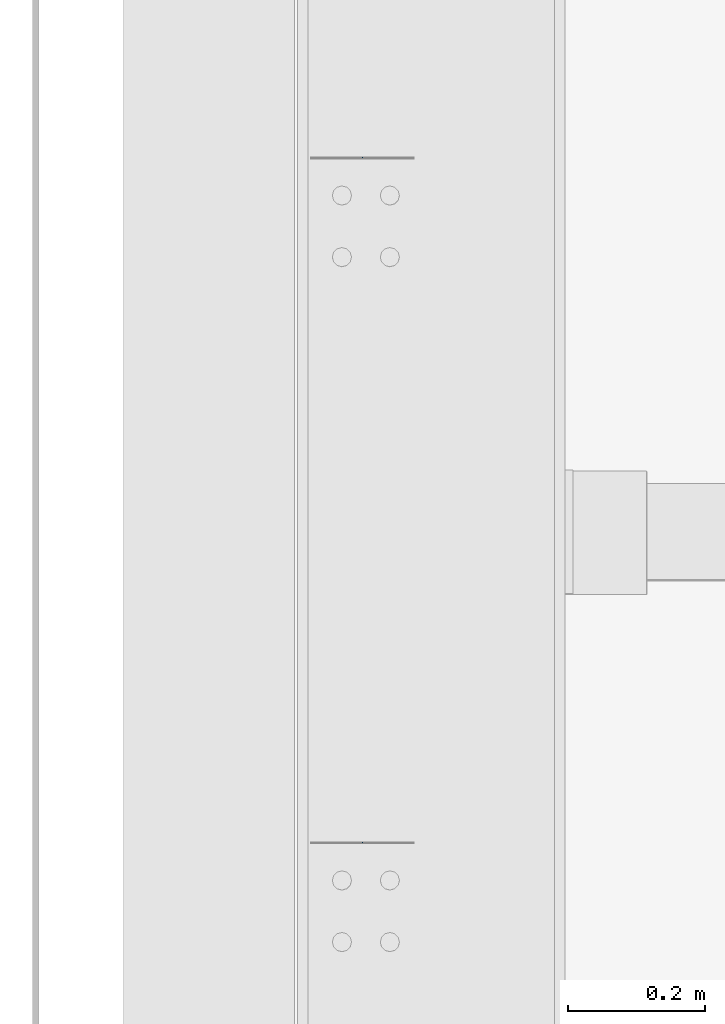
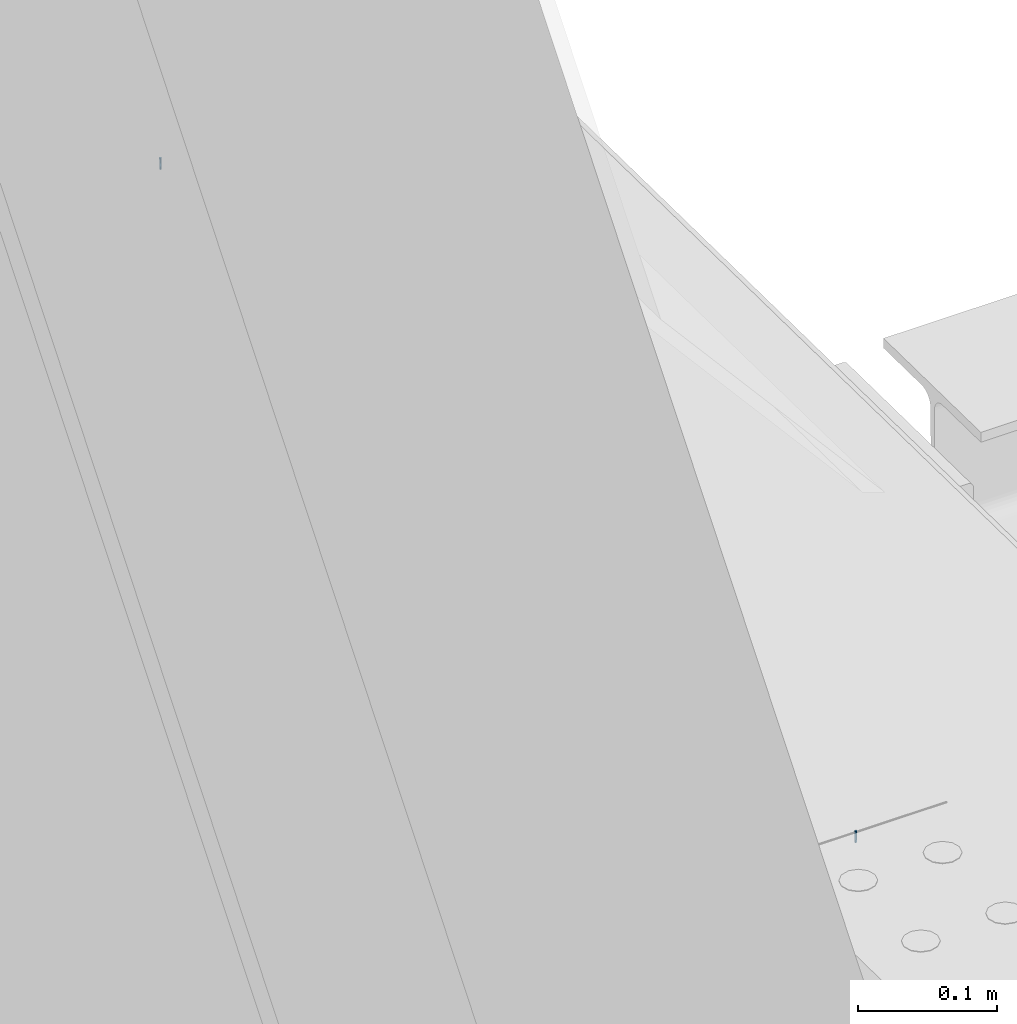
# One storey, part 69 of 186: 2 beams.
"""IFC4X3_ADD2 building model written with IfcOpenShell, lengths in millimetres."""

from ifc_helpers import new_model, si_unit, direction, frame, frame_2d, origin_with_axes, place, context, subcontext, project, spatial, rectangle, extrude, material, element, save


model = new_model("IFC4X3_ADD2")

# Units and contexts
model_context = context("Model", 3, precision=1e-05, world=origin_with_axes(), true_north=direction((0.0, 1.0)))
body_context = subcontext(model_context, "Body", "Model", "MODEL_VIEW")
ifc_project = project(units=[si_unit("LENGTHUNIT", "METRE", prefix="MILLI"), si_unit("AREAUNIT", "SQUARE_METRE"), si_unit("VOLUMEUNIT", "CUBIC_METRE"), si_unit("PLANEANGLEUNIT", "RADIAN"), si_unit("TIMEUNIT", "SECOND"), si_unit("MASSUNIT", "GRAM")], contexts=[model_context])

# Site, building, storey
site_placement = place(None, origin_with_axes())
site = spatial("IfcSite", under=ifc_project, at=site_placement, Name="Site", CompositionType="ELEMENT")
building_placement = place(site_placement, origin_with_axes())
building = spatial("IfcBuilding", under=site, at=building_placement, Name="IFC Building Story")
storey_placement = place(building_placement, frame((0.0, 0.0, 4370.0), z_axis=(0.0, 0.0, 1.0), x_axis=(1.0, 0.0, 0.0)))
storey = spatial("IfcBuildingStorey", under=building, at=storey_placement, Name="ETAGE 10 (1)", Elevation=4370.0)

# Beams
ifc_material = material(Name="STEEL/Accessory_invisible")
for number, where, z_axis, x_axis, name in (
    (1, (33301.183164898, -2702.722173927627, 3186.9972116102), (-1.0, 0.0, 0.0), (0.0, 0.01500926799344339, 0.9998873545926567), "ZW1"),
    (2, (33301.183164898, -1702.722173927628, 3171.46121161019), (-1.0, 0.0, 0.0), (0.0, 0.01500926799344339, 0.9998873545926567), "ZW1"),
):
    element("IfcBeam", number, at=place(storey_placement, frame(where, z_axis=z_axis, x_axis=x_axis)), inside=storey, material=ifc_material, Name=name, ObjectType="1*1 12", context=body_context, shape_type="SweptSolid", body=[
        extrude(rectangle(XDim=10.0, YDim=1.00000000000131, at=frame_2d((0.0, 5.95523630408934e-12), x_axis=(1.0, 0.0))), origin_with_axes(), (0.0, 0.0, 1.0), 1.0),
    ])

save(model, "model.ifc")
